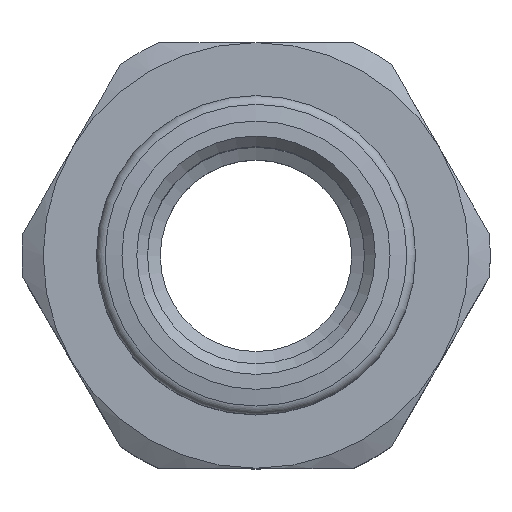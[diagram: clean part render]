
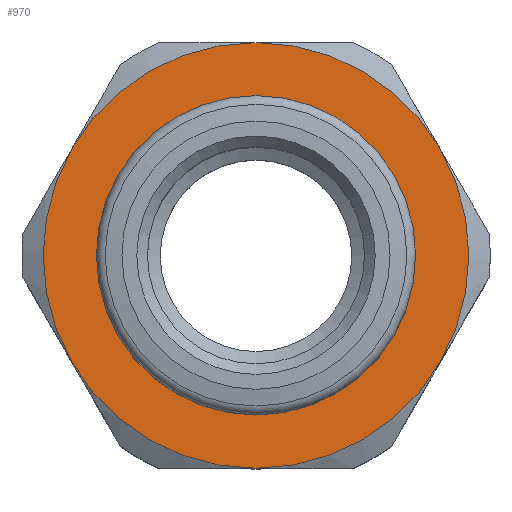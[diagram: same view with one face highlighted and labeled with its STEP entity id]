
A CAD part, top view. The second image highlights one B-rep face of the part: STEP entity #970.
In plain terms, the highlighted planar face has unit normal (0, 0, 1).
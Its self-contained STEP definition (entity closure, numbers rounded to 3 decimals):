
#970=ADVANCED_FACE('', (#980,#990), #1000, .T.);
#3950=AXIS2_PLACEMENT_3D('Ax2Pl3d', #3960, #3970, #3980);
#4350=AXIS2_PLACEMENT_3D('Ax2Pl3d', #4360, #4370, #4380);
#4390=AXIS2_PLACEMENT_3D('Ax2Pl3d', #4400, #4410, #4420);
#4430=AXIS2_PLACEMENT_3D('Ax2Pl3d', #4440, #4450, #4460);
#4470=AXIS2_PLACEMENT_3D('Ax2Pl3d', #4480, #4490, #4500);
#4510=AXIS2_PLACEMENT_3D('Ax2Pl3d', #4520, #4530, #4540);
#4550=AXIS2_PLACEMENT_3D('Ax2Pl3d', #4560, #4570, #4580);
#4590=AXIS2_PLACEMENT_3D('Ax2Pl3d', #4600, #4610, #4620);
#8690=CARTESIAN_POINT('', (4.901,18.829,42.297));
#8770=CARTESIAN_POINT('', (13.562,23.829,42.297));
#8850=CARTESIAN_POINT('', (22.222,18.829,42.297));
#8930=CARTESIAN_POINT('', (22.222,8.829,42.297));
#8990=CARTESIAN_POINT('', (13.562,3.829,42.297));
#9050=CARTESIAN_POINT('', (4.901,8.829,42.297));
#3960=CARTESIAN_POINT('HicPkt', (13.562,13.829,42.297));
#4360=CARTESIAN_POINT('HicPkt', (23.562,13.829,42.297));
#4400=CARTESIAN_POINT('HicPkt', (13.562,13.829,42.297));
#4440=CARTESIAN_POINT('HicPkt', (13.562,13.829,42.297));
#4480=CARTESIAN_POINT('HicPkt', (13.562,13.829,42.297));
#4520=CARTESIAN_POINT('HicPkt', (13.562,13.829,42.297));
#4560=CARTESIAN_POINT('HicPkt', (13.562,13.829,42.297));
#4600=CARTESIAN_POINT('HicPkt', (13.562,13.829,42.297));
#9150=CARTESIAN_POINT('', (13.562,21.329,42.297));
#9520=CIRCLE('Circle', #3950, 10.);
#9600=CIRCLE('Circle', #4390, 10.);
#9610=CIRCLE('Circle', #4430, 10.);
#9620=CIRCLE('Circle', #4470, 10.);
#9630=CIRCLE('Circle', #4510, 10.);
#9640=CIRCLE('Circle', #4550, 10.);
#9650=CIRCLE('Circle', #4590, 7.5);
#3970=DIRECTION('Axis', (0.,0.,-1.));
#3980=DIRECTION('RefDirection', (-1.,-0.,0.));
#4370=DIRECTION('Axis', (0.,0.,1.));
#4380=DIRECTION('RefDirection', (1.,0.,-0.));
#4410=DIRECTION('Axis', (0.,0.,-1.));
#4420=DIRECTION('RefDirection', (-1.,-0.,0.));
#4450=DIRECTION('Axis', (0.,0.,-1.));
#4460=DIRECTION('RefDirection', (-1.,-0.,0.));
#4490=DIRECTION('Axis', (0.,0.,-1.));
#4500=DIRECTION('RefDirection', (-1.,-0.,0.));
#4530=DIRECTION('Axis', (0.,0.,-1.));
#4540=DIRECTION('RefDirection', (-1.,-0.,0.));
#4570=DIRECTION('Axis', (0.,0.,-1.));
#4580=DIRECTION('RefDirection', (-1.,-0.,0.));
#4610=DIRECTION('Axis', (0.,0.,1.));
#4620=DIRECTION('RefDirection', (1.,0.,-0.));
#14260=EDGE_CURVE('', #13900, #14010, #9520, .T.);
#14360=EDGE_CURVE('', #13760, #13900, #9600, .T.);
#14370=EDGE_CURVE('', #13620, #13760, #9610, .T.);
#14380=EDGE_CURVE('', #13480, #13620, #9620, .T.);
#14390=EDGE_CURVE('', #14120, #13480, #9630, .T.);
#14400=EDGE_CURVE('', #14010, #14120, #9640, .T.);
#14410=EDGE_CURVE('', #14420, #14420, #9650, .T.);
#16130=EDGE_LOOP('Edge_loop', (#16140,#16150,#16160,#16170,#16180,
#16190));
#16200=EDGE_LOOP('Edge_loop', (#16210));
#990=FACE_BOUND('', #16200, .T.);
#980=FACE_OUTER_BOUND('Face_outer_bound', #16130, .T.);
#16140=ORIENTED_EDGE('', *, *, #14260, .F.);
#16150=ORIENTED_EDGE('', *, *, #14360, .F.);
#16160=ORIENTED_EDGE('', *, *, #14370, .F.);
#16170=ORIENTED_EDGE('', *, *, #14380, .F.);
#16180=ORIENTED_EDGE('', *, *, #14390, .F.);
#16190=ORIENTED_EDGE('', *, *, #14400, .F.);
#16210=ORIENTED_EDGE('', *, *, #14410, .F.);
#1000=PLANE('Plane', #4350);
#13480=VERTEX_POINT('', #8690);
#13620=VERTEX_POINT('', #8770);
#13760=VERTEX_POINT('', #8850);
#13900=VERTEX_POINT('', #8930);
#14010=VERTEX_POINT('', #8990);
#14120=VERTEX_POINT('', #9050);
#14420=VERTEX_POINT('', #9150);
